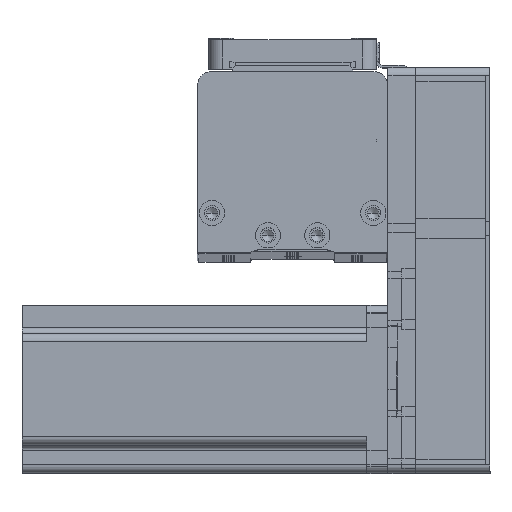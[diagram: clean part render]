
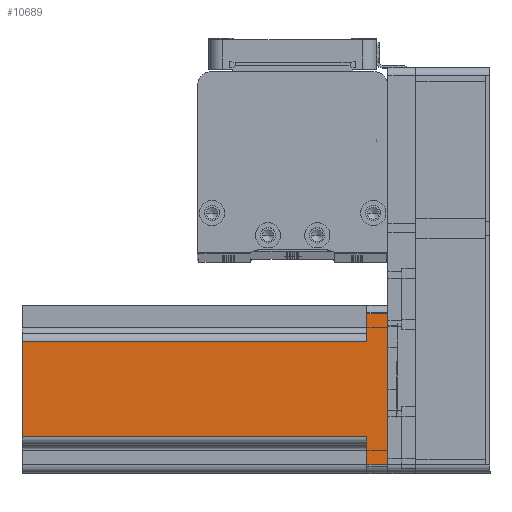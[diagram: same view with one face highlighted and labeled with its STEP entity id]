
A CAD part, top view. The second image highlights one B-rep face of the part: STEP entity #10689.
In plain terms, the highlighted planar face has unit normal (0, 0, 1) as drawn and (0, 1, 0) by its records, which use the part's own axes.
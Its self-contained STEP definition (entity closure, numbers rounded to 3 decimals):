
#296 = CARTESIAN_POINT ( 'NONE',  ( 17., 30., 7.5 ) ) ;
#333 = EDGE_CURVE ( 'NONE', #54371, #4406, #33003, .T. ) ;
#1036 = DIRECTION ( 'NONE',  ( 1., 0., 0. ) ) ;
#2525 = CARTESIAN_POINT ( 'NONE',  ( -27., 30., 0. ) ) ;
#3669 = LINE ( 'NONE', #17240, #36064 ) ;
#4406 = VERTEX_POINT ( 'NONE', #2525 ) ;
#4415 = CARTESIAN_POINT ( 'NONE',  ( -17., 30., 7.5 ) ) ;
#5310 = CARTESIAN_POINT ( 'NONE',  ( -20., 30., 7.5 ) ) ;
#5399 = CARTESIAN_POINT ( 'NONE',  ( 30., 30., 130.7 ) ) ;
#6122 = VERTEX_POINT ( 'NONE', #52382 ) ;
#6311 = LINE ( 'NONE', #39210, #14895 ) ;
#7067 = EDGE_LOOP ( 'NONE', ( #8174, #36092, #50643, #53917, #40316, #14286, #37265, #27051 ) ) ;
#7492 = CARTESIAN_POINT ( 'NONE',  ( 27., 30., 7.5 ) ) ;
#7885 = DIRECTION ( 'NONE',  ( 0., 0., 1. ) ) ;
#8174 = ORIENTED_EDGE ( 'NONE', *, *, #39033, .T. ) ;
#8496 = LINE ( 'NONE', #39518, #52100 ) ;
#9372 = CARTESIAN_POINT ( 'NONE',  ( 30., 30., 130.7 ) ) ;
#9611 = DIRECTION ( 'NONE',  ( 1., 0., 0. ) ) ;
#10180 = CARTESIAN_POINT ( 'NONE',  ( 30., 30., 0. ) ) ;
#10689 = ADVANCED_FACE ( 'NONE', ( #17783 ), #42472, .F. ) ;
#12279 = VERTEX_POINT ( 'NONE', #47647 ) ;
#13003 = EDGE_CURVE ( 'NONE', #45875, #36151, #51636, .T. ) ;
#13648 = DIRECTION ( 'NONE',  ( -1., 0., 0. ) ) ;
#13821 = EDGE_CURVE ( 'NONE', #12279, #20806, #6311, .T. ) ;
#13911 = DIRECTION ( 'NONE',  ( 0., 0., -1. ) ) ;
#14286 = ORIENTED_EDGE ( 'NONE', *, *, #49385, .T. ) ;
#14895 = VECTOR ( 'NONE', #13911, 1000. ) ;
#15908 = CARTESIAN_POINT ( 'NONE',  ( -27., 30., 130.7 ) ) ;
#17240 = CARTESIAN_POINT ( 'NONE',  ( 20., 30., 7.5 ) ) ;
#17783 = FACE_OUTER_BOUND ( 'NONE', #7067, .T. ) ;
#17999 = VECTOR ( 'NONE', #7885, 1000. ) ;
#18046 = EDGE_CURVE ( 'NONE', #4406, #6122, #38077, .T. ) ;
#20806 = VERTEX_POINT ( 'NONE', #296 ) ;
#22512 = LINE ( 'NONE', #9372, #32412 ) ;
#26824 = VECTOR ( 'NONE', #45426, 1000. ) ;
#27051 = ORIENTED_EDGE ( 'NONE', *, *, #18046, .T. ) ;
#27119 = VECTOR ( 'NONE', #1036, 1000. ) ;
#28791 = EDGE_CURVE ( 'NONE', #51272, #20806, #3669, .T. ) ;
#31073 = DIRECTION ( 'NONE',  ( -1., 0., 0. ) ) ;
#31457 = CARTESIAN_POINT ( 'NONE',  ( 27., 30., 0. ) ) ;
#31662 = VECTOR ( 'NONE', #31073, 1000. ) ;
#32412 = VECTOR ( 'NONE', #13648, 1000. ) ;
#33003 = LINE ( 'NONE', #10180, #31662 ) ;
#34943 = DIRECTION ( 'NONE',  ( 0., -1., 0. ) ) ;
#35431 = DIRECTION ( 'NONE',  ( 0., 0., -1. ) ) ;
#36064 = VECTOR ( 'NONE', #46715, 1000. ) ;
#36092 = ORIENTED_EDGE ( 'NONE', *, *, #13003, .T. ) ;
#36151 = VERTEX_POINT ( 'NONE', #52551 ) ;
#36678 = AXIS2_PLACEMENT_3D ( 'NONE', #5399, #34943, #9611 ) ;
#37265 = ORIENTED_EDGE ( 'NONE', *, *, #333, .T. ) ;
#38077 = LINE ( 'NONE', #15908, #26824 ) ;
#38365 = LINE ( 'NONE', #5310, #27119 ) ;
#39033 = EDGE_CURVE ( 'NONE', #6122, #45875, #38365, .T. ) ;
#39210 = CARTESIAN_POINT ( 'NONE',  ( 17., 30., 130.7 ) ) ;
#39518 = CARTESIAN_POINT ( 'NONE',  ( 27., 30., 130.7 ) ) ;
#40316 = ORIENTED_EDGE ( 'NONE', *, *, #28791, .F. ) ;
#42472 = PLANE ( 'NONE',  #36678 ) ;
#45426 = DIRECTION ( 'NONE',  ( 0., 0., 1. ) ) ;
#45875 = VERTEX_POINT ( 'NONE', #4415 ) ;
#46715 = DIRECTION ( 'NONE',  ( -1., 0., 0. ) ) ;
#47647 = CARTESIAN_POINT ( 'NONE',  ( 17., 30., 130.7 ) ) ;
#49385 = EDGE_CURVE ( 'NONE', #51272, #54371, #8496, .T. ) ;
#50643 = ORIENTED_EDGE ( 'NONE', *, *, #53456, .F. ) ;
#51272 = VERTEX_POINT ( 'NONE', #7492 ) ;
#51636 = LINE ( 'NONE', #54384, #17999 ) ;
#52100 = VECTOR ( 'NONE', #35431, 1000. ) ;
#52382 = CARTESIAN_POINT ( 'NONE',  ( -27., 30., 7.5 ) ) ;
#52551 = CARTESIAN_POINT ( 'NONE',  ( -17., 30., 130.7 ) ) ;
#53456 = EDGE_CURVE ( 'NONE', #12279, #36151, #22512, .T. ) ;
#53917 = ORIENTED_EDGE ( 'NONE', *, *, #13821, .T. ) ;
#54371 = VERTEX_POINT ( 'NONE', #31457 ) ;
#54384 = CARTESIAN_POINT ( 'NONE',  ( -17., 30., 130.7 ) ) ;
